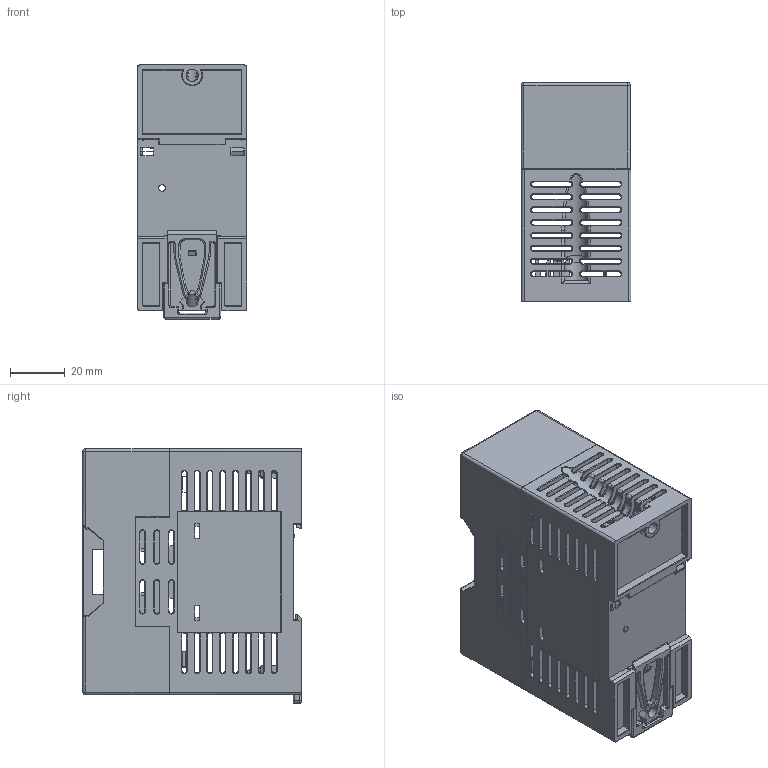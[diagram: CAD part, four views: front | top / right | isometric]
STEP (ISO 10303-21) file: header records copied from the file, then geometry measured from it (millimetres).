
FILE_DESCRIPTION(/* description */ (''),/* implementation_level */ '2;1');
FILE_NAME(/* name */ 'FB8A88~1',/* time_stamp */ '2021-06-10T12:03:47+08:00',/* author */ (''),/* organization */ (''),/* preprocessor_version */ 'ST-DEVELOPER v16.5',/* originating_system */ '',/* authorisation */ '');
FILE_SCHEMA (('CONFIG_CONTROL_DESIGN'));
Products named in the file (2): Document; Block 01
Assembly tree (1 placements, depth 2):
  Document
    Block 01
Bounding box: 40.12 x 79.93 x 93.04 mm (x, y, z)
Surface area: 53661.3 mm2 (no closed solid volume)
Topology: 0 solids, 1975 shells, 1975 faces, 10231 edges, 10231 vertices
Faces by surface type: plane 918, cylinder 677, bspline 380
Entity records: 126927 total; most frequent: CARTESIAN_POINT 73402, ORIENTED_EDGE 10231, EDGE_CURVE 10231, VERTEX_POINT 10231, B_SPLINE_CURVE_WITH_KNOTS 7707, EDGE_LOOP 2114, SHELL_BASED_SURFACE_MODEL 1975, OPEN_SHELL 1975
